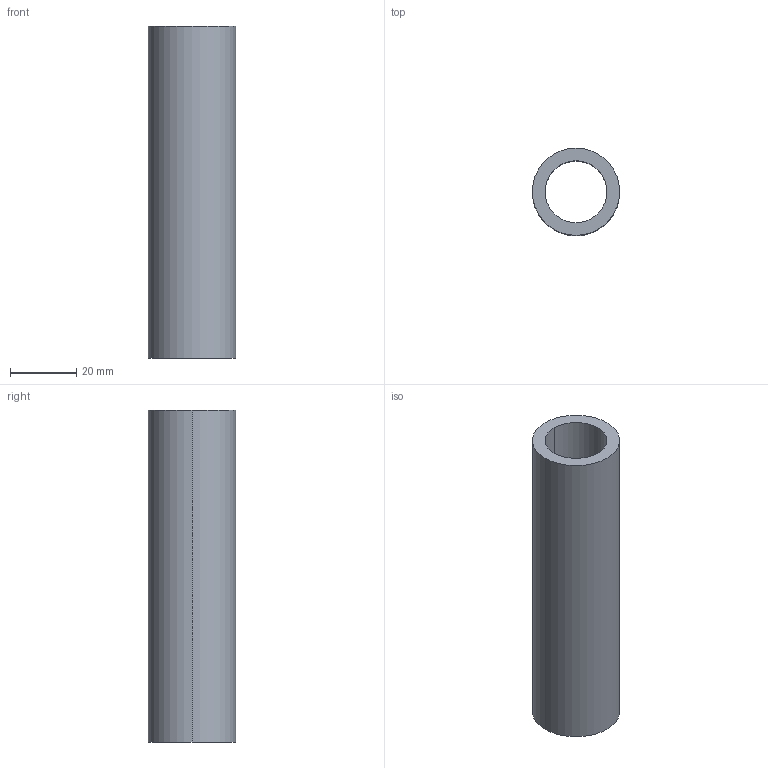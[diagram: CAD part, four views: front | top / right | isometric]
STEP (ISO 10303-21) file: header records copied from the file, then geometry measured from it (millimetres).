
FILE_DESCRIPTION (( 'STEP AP203' ), '1' );
FILE_NAME ('19-0408-44_outokumpu.step', '2015-08-11T09:38:33', ( '' ), ( '' ), 'SwSTEP 2.0', 'SolidWorks 2008', '' );
FILE_SCHEMA (( 'CONFIG_CONTROL_DESIGN' ));
Length unit declared in the file: millimetre
Products named in the file (1): 19-0408-44_outokumpu
Bounding box: 26.3 x 26.3 x 100 mm (x, y, z)
Volume: 26008 mm3; surface area: 14712 mm2
Topology: 1 solids, 1 shells, 12 faces, 26 edges, 16 vertices
Faces by surface type: cylinder 6, cone 4, plane 2
Entity records: 415 total; most frequent: DIRECTION 68, CARTESIAN_POINT 55, ORIENTED_EDGE 52, AXIS2_PLACEMENT_3D 29, EDGE_CURVE 26, CIRCLE 16, VERTEX_POINT 16, EDGE_LOOP 14
